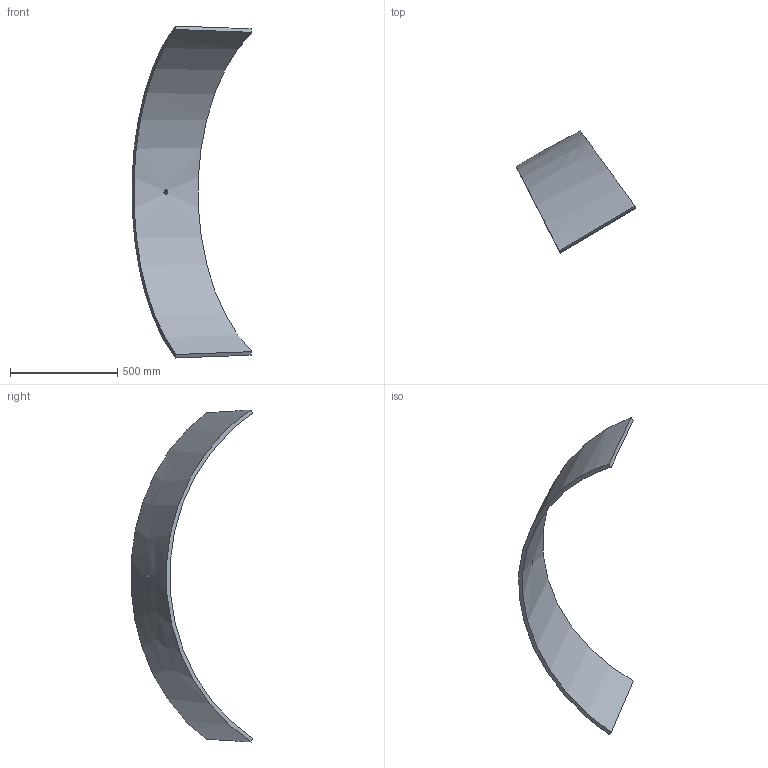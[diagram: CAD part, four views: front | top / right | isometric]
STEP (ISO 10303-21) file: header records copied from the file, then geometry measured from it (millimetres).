
FILE_DESCRIPTION (( 'STEP AP214' ), '1' );
FILE_NAME ('Section 10-B.STEP', '2025-01-09T19:43:27', ( '' ), ( '' ), 'SwSTEP 2.0', 'SolidWorks 2024', '' );
FILE_SCHEMA (( 'AUTOMOTIVE_DESIGN' ));
Length unit declared in the file: inch
Products named in the file (1): Section 10-B
Bounding box: 559.49 x 568.94 x 1548.91 mm (x, y, z)
Volume: 12762247.5 mm3; surface area: 1426378.8 mm2
Topology: 1 solids, 1 shells, 7 faces, 15 edges, 10 vertices
Faces by surface type: bspline 6, cylinder 1
Full cylindrical faces by diameter (mm): 19.447 x1
Entity records: 521 total; most frequent: CARTESIAN_POINT 384, ORIENTED_EDGE 28, EDGE_CURVE 14, B_SPLINE_CURVE_WITH_KNOTS 14, EDGE_LOOP 10, VERTEX_POINT 10, FACE_OUTER_BOUND 8, ADVANCED_FACE 7
